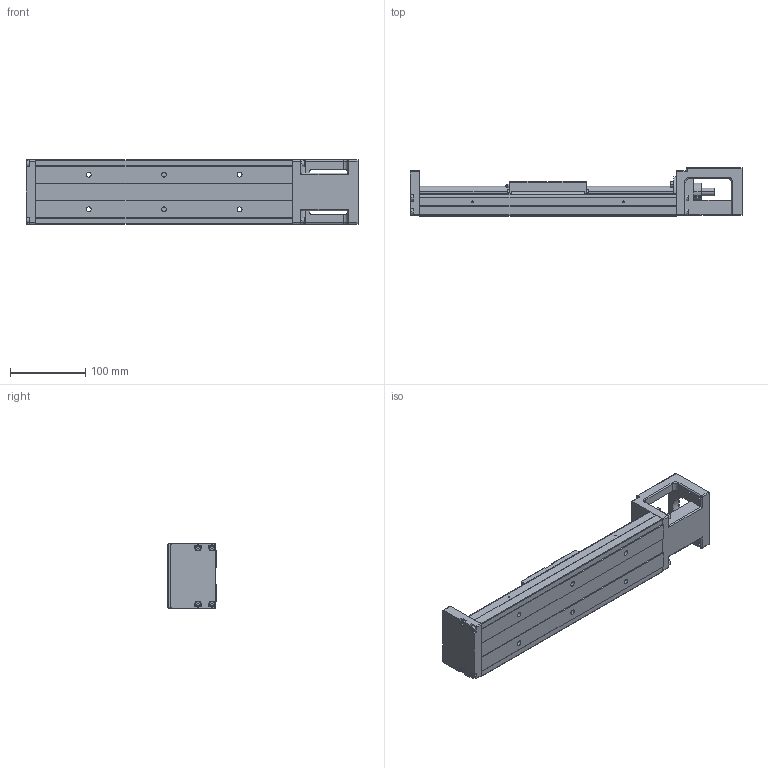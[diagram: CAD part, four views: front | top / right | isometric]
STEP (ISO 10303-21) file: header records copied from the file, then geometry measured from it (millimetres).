
FILE_DESCRIPTION (( 'STEP AP203' ), '1' );
FILE_NAME ('HKK86D10C-340A1-F0.stp', '2021-11-25T03:46:26', ( '' ), ( '' ), 'SwSTEP 2.0', 'SolidWorks 2018', '' );
FILE_SCHEMA (( 'CONFIG_CONTROL_DESIGN' ));
Length unit declared in the file: millimetre
Products named in the file (1): HKK86D10C-340A1-F0
Bounding box: 440 x 64 x 86 mm (x, y, z)
Volume: 957602.1 mm3; surface area: 195267.6 mm2
Topology: 2 solids, 2 shells, 575 faces, 1525 edges, 960 vertices
Faces by surface type: plane 289, cylinder 203, cone 66, sphere 9, torus 8
Entity records: 17865 total; most frequent: CARTESIAN_POINT 3461, DIRECTION 3033, ORIENTED_EDGE 2942, EDGE_CURVE 1471, AXIS2_PLACEMENT_3D 1035, LINE 963, VECTOR 963, VERTEX_POINT 956
